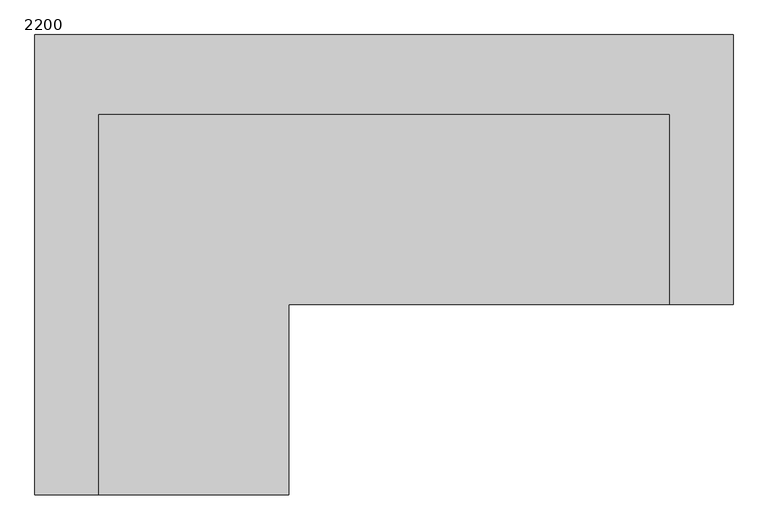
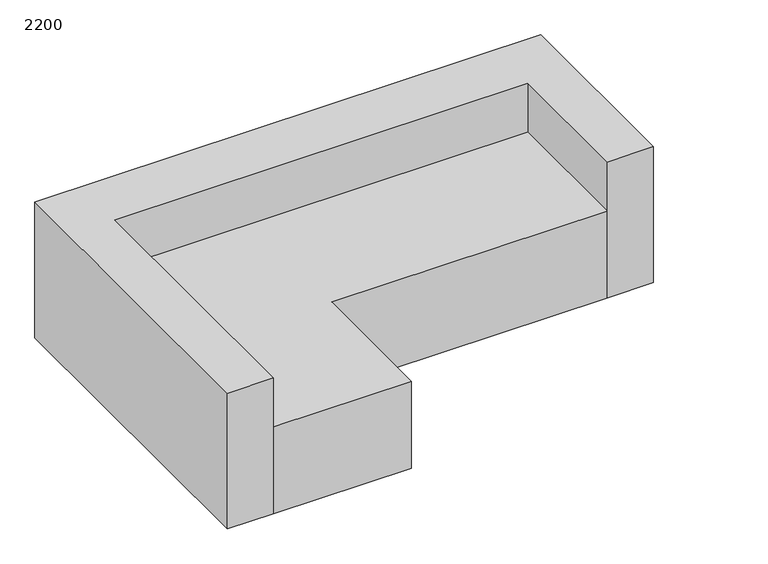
"""IFC4 building model written with IfcOpenShell, lengths in millimetres: furniture geometry, Fu_диван угловой_LEG : 2200."""

from ifc_helpers import new_model, si_unit, origin, origin_with_axes, place, context, project, spatial, polyline, outline, extrude, source, transform, mapped, element, save


def furniture_2200_8f109862(model_context):
    return source(origin(), model_context, "Body", "SweptSolid", [
        extrude(outline(polyline([(2273.3737705, 891.7770492), (2273.3737705, 41.7770492), (2073.3737705, 41.7770492), (2073.3737705, 641.7770492), (273.3737705, 641.7770492), (273.3737705, -558.2229508), (73.3737705, -558.2229508), (73.3737705, 891.7770492), (2273.3737705, 891.7770492)])), origin_with_axes(), (0.0, 0.0, 1.0), 625.0),
        extrude(outline(polyline([(2073.3737705, 41.7770492), (873.3737705, 41.7770492), (873.3737705, -558.2229508), (273.3737705, -558.2229508), (273.3737705, 641.7770492), (2073.3737705, 641.7770492), (2073.3737705, 41.7770492)])), origin_with_axes(), (0.0, 0.0, 1.0), 400.0),
    ])


if __name__ == "__main__":
    model = new_model("IFC4")
    model_context = context("Model", 3, world=origin())
    ifc_project = project(units=[si_unit("LENGTHUNIT", "METRE", prefix="MILLI")], contexts=[model_context])
    site = spatial("IfcSite", under=ifc_project)
    building = spatial("IfcBuilding", under=site)
    placement = place(None, origin())
    furniture_2200_shape = furniture_2200_8f109862(model_context)
    element("IfcFurniture", 1, ObjectType="Fu_диван угловой_LEG : 2200", at=placement, inside=building, context=model_context, shape_type="MappedRepresentation", body=[
        mapped(furniture_2200_shape, transform((0.0, 0.0, 0.0), x_axis=(1.0, 0.0, 0.0), y_axis=(0.0, 1.0, 0.0), z_axis=(0.0, 0.0, 1.0))),
    ])
    save(model, "model.ifc")
